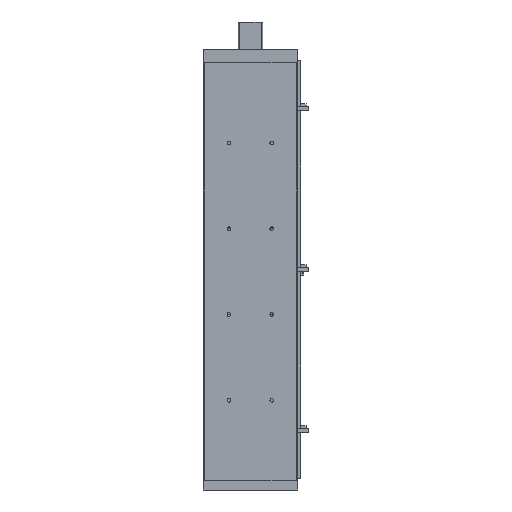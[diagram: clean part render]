
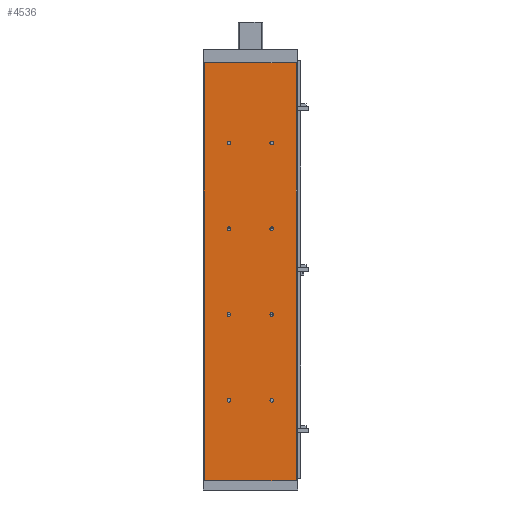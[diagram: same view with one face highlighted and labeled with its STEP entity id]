
A CAD part, front view. The second image highlights one B-rep face of the part: STEP entity #4536.
In plain terms, the highlighted planar face has unit normal (0, -1, 0).
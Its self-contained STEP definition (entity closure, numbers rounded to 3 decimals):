
#3162=CARTESIAN_POINT('',(-107.,0.0,974.0));
#3163=VERTEX_POINT('',#3162);
#3170=CARTESIAN_POINT('',(107.,0.0,974.0));
#3171=VERTEX_POINT('',#3170);
#3172=CARTESIAN_POINT('',(107.,0.0,974.0));
#3173=DIRECTION('',(-1.0,0.0,0.0));
#3174=VECTOR('',#3173,214.);
#3175=LINE('',#3172,#3174);
#3176=EDGE_CURVE('',#3171,#3163,#3175,.T.);
#3506=CARTESIAN_POINT('',(107.,0.0,0.0));
#3507=VERTEX_POINT('',#3506);
#3514=CARTESIAN_POINT('',(-107.,0.0,0.0));
#3515=VERTEX_POINT('',#3514);
#3516=CARTESIAN_POINT('',(-107.,0.0,0.0));
#3517=DIRECTION('',(1.0,0.0,0.0));
#3518=VECTOR('',#3517,214.);
#3519=LINE('',#3516,#3518);
#3520=EDGE_CURVE('',#3515,#3507,#3519,.T.);
#3557=CARTESIAN_POINT('',(-54.249,0.0,787.));
#3558=VERTEX_POINT('',#3557);
#3559=CARTESIAN_POINT('',(-49.999,0.0,787.));
#3560=DIRECTION('',(0.0,1.0,0.0));
#3561=DIRECTION('',(1.0,0.0,0.0));
#3562=AXIS2_PLACEMENT_3D('',#3559,#3560,#3561);
#3563=CIRCLE('',#3562,4.25);
#3564=EDGE_CURVE('',#3558,#3558,#3563,.T.);
#3736=CARTESIAN_POINT('',(45.751,0.0,787.));
#3737=VERTEX_POINT('',#3736);
#3738=CARTESIAN_POINT('',(50.001,0.0,787.));
#3739=DIRECTION('',(0.0,1.0,0.0));
#3740=DIRECTION('',(1.0,0.0,0.0));
#3741=AXIS2_PLACEMENT_3D('',#3738,#3739,#3740);
#3742=CIRCLE('',#3741,4.25);
#3743=EDGE_CURVE('',#3737,#3737,#3742,.T.);
#3777=CARTESIAN_POINT('',(-54.249,0.0,387.));
#3778=VERTEX_POINT('',#3777);
#3779=CARTESIAN_POINT('',(-49.999,0.0,387.));
#3780=DIRECTION('',(0.0,1.0,0.0));
#3781=DIRECTION('',(1.0,0.0,0.0));
#3782=AXIS2_PLACEMENT_3D('',#3779,#3780,#3781);
#3783=CIRCLE('',#3782,4.25);
#3784=EDGE_CURVE('',#3778,#3778,#3783,.T.);
#3956=CARTESIAN_POINT('',(45.751,0.0,387.));
#3957=VERTEX_POINT('',#3956);
#3958=CARTESIAN_POINT('',(50.001,0.0,387.));
#3959=DIRECTION('',(0.0,1.0,0.0));
#3960=DIRECTION('',(1.0,0.0,0.0));
#3961=AXIS2_PLACEMENT_3D('',#3958,#3959,#3960);
#3962=CIRCLE('',#3961,4.25);
#3963=EDGE_CURVE('',#3957,#3957,#3962,.T.);
#3997=CARTESIAN_POINT('',(-54.249,0.0,187.));
#3998=VERTEX_POINT('',#3997);
#3999=CARTESIAN_POINT('',(-49.999,0.0,187.));
#4000=DIRECTION('',(0.0,1.0,0.0));
#4001=DIRECTION('',(1.0,0.0,0.0));
#4002=AXIS2_PLACEMENT_3D('',#3999,#4000,#4001);
#4003=CIRCLE('',#4002,4.25);
#4004=EDGE_CURVE('',#3998,#3998,#4003,.T.);
#4176=CARTESIAN_POINT('',(45.751,0.0,187.));
#4177=VERTEX_POINT('',#4176);
#4178=CARTESIAN_POINT('',(50.001,0.0,187.));
#4179=DIRECTION('',(0.0,1.0,0.0));
#4180=DIRECTION('',(1.0,0.0,0.0));
#4181=AXIS2_PLACEMENT_3D('',#4178,#4179,#4180);
#4182=CIRCLE('',#4181,4.25);
#4183=EDGE_CURVE('',#4177,#4177,#4182,.T.);
#4286=CARTESIAN_POINT('',(45.751,0.0,587.0));
#4287=VERTEX_POINT('',#4286);
#4288=CARTESIAN_POINT('',(50.001,0.0,587.0));
#4289=DIRECTION('',(0.0,1.0,0.0));
#4290=DIRECTION('',(1.0,0.0,0.0));
#4291=AXIS2_PLACEMENT_3D('',#4288,#4289,#4290);
#4292=CIRCLE('',#4291,4.25);
#4293=EDGE_CURVE('',#4287,#4287,#4292,.T.);
#4396=CARTESIAN_POINT('',(-54.249,0.0,587.0));
#4397=VERTEX_POINT('',#4396);
#4398=CARTESIAN_POINT('',(-49.999,0.0,587.0));
#4399=DIRECTION('',(0.0,1.0,0.0));
#4400=DIRECTION('',(1.0,0.0,0.0));
#4401=AXIS2_PLACEMENT_3D('',#4398,#4399,#4400);
#4402=CIRCLE('',#4401,4.25);
#4403=EDGE_CURVE('',#4397,#4397,#4402,.T.);
#4423=CARTESIAN_POINT('',(107.,0.0,0.0));
#4424=DIRECTION('',(0.0,0.0,1.0));
#4425=VECTOR('',#4424,974.0);
#4426=LINE('',#4423,#4425);
#4427=EDGE_CURVE('',#3507,#3171,#4426,.T.);
#4445=CARTESIAN_POINT('',(-107.,0.0,0.0));
#4446=DIRECTION('',(0.0,0.0,1.0));
#4447=VECTOR('',#4446,974.0);
#4448=LINE('',#4445,#4447);
#4449=EDGE_CURVE('',#3515,#3163,#4448,.T.);
#4501=CARTESIAN_POINT('',(107.,0.0,0.0));
#4502=DIRECTION('',(0.0,-1.0,0.0));
#4503=DIRECTION('',(0.0,0.0,-1.0));
#4504=AXIS2_PLACEMENT_3D('',#4501,#4502,#4503);
#4505=PLANE('',#4504);
#4506=ORIENTED_EDGE('',*,*,#3176,.T.);
#4507=ORIENTED_EDGE('',*,*,#4449,.F.);
#4508=ORIENTED_EDGE('',*,*,#3520,.T.);
#4509=ORIENTED_EDGE('',*,*,#4427,.T.);
#4510=EDGE_LOOP('',(#4506,#4507,#4508,#4509));
#4511=FACE_OUTER_BOUND('',#4510,.T.);
#4512=ORIENTED_EDGE('',*,*,#3564,.T.);
#4513=EDGE_LOOP('',(#4512));
#4514=FACE_BOUND('',#4513,.T.);
#4515=ORIENTED_EDGE('',*,*,#3743,.T.);
#4516=EDGE_LOOP('',(#4515));
#4517=FACE_BOUND('',#4516,.T.);
#4518=ORIENTED_EDGE('',*,*,#3784,.T.);
#4519=EDGE_LOOP('',(#4518));
#4520=FACE_BOUND('',#4519,.T.);
#4521=ORIENTED_EDGE('',*,*,#3963,.T.);
#4522=EDGE_LOOP('',(#4521));
#4523=FACE_BOUND('',#4522,.T.);
#4524=ORIENTED_EDGE('',*,*,#4004,.T.);
#4525=EDGE_LOOP('',(#4524));
#4526=FACE_BOUND('',#4525,.T.);
#4527=ORIENTED_EDGE('',*,*,#4183,.T.);
#4528=EDGE_LOOP('',(#4527));
#4529=FACE_BOUND('',#4528,.T.);
#4530=ORIENTED_EDGE('',*,*,#4293,.T.);
#4531=EDGE_LOOP('',(#4530));
#4532=FACE_BOUND('',#4531,.T.);
#4533=ORIENTED_EDGE('',*,*,#4403,.T.);
#4534=EDGE_LOOP('',(#4533));
#4535=FACE_BOUND('',#4534,.T.);
#4536=ADVANCED_FACE('',(#4511,#4514,#4517,#4520,#4523,#4526,#4529,#4532,#4535),#4505,.T.);
